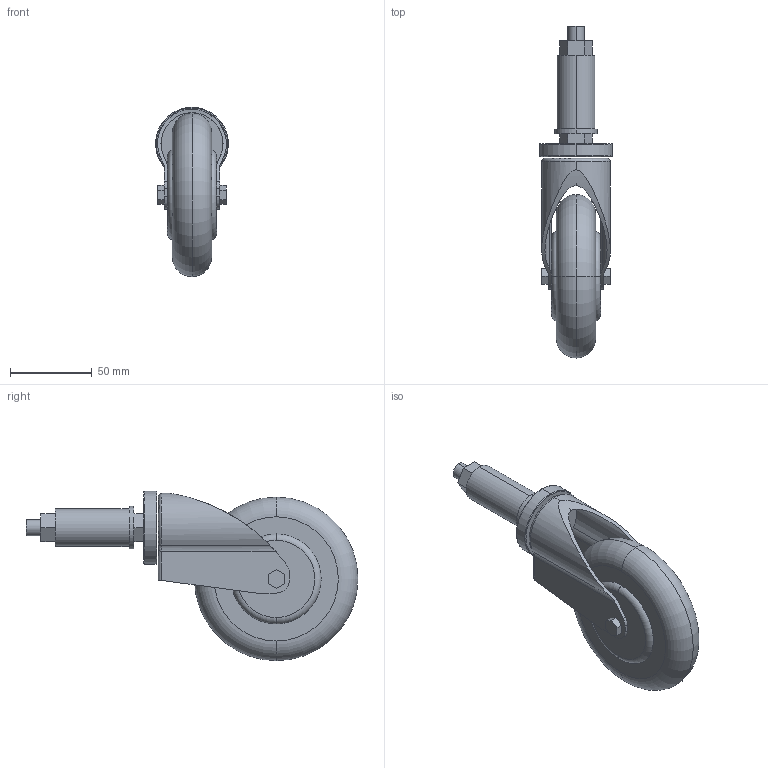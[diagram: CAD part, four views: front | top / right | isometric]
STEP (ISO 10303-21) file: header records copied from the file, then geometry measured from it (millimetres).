
FILE_DESCRIPTION (( 'STEP AP214' ), '1' );
FILE_NAME ('015.400.004.STEP', '2017-12-21T13:27:12', ( '' ), ( '' ), 'SwSTEP 2.0', 'SolidWorks 2016', '' );
FILE_SCHEMA (( 'AUTOMOTIVE_DESIGN' ));
Length unit declared in the file: millimetre
Products named in the file (1): 015.400.004
Bounding box: 44.5 x 203 x 103.58 mm (x, y, z)
Volume: 236944.4 mm3; surface area: 59246.8 mm2
Topology: 7 solids, 7 shells, 97 faces, 217 edges, 138 vertices
Faces by surface type: plane 53, cylinder 23, torus 15, cone 4, bspline 2
Entity records: 3392 total; most frequent: CARTESIAN_POINT 851, DIRECTION 470, ORIENTED_EDGE 430, EDGE_CURVE 215, AXIS2_PLACEMENT_3D 173, VERTEX_POINT 138, LINE 124, VECTOR 124
